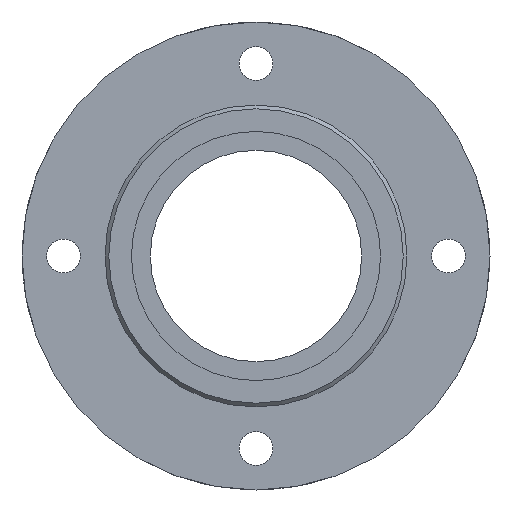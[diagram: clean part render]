
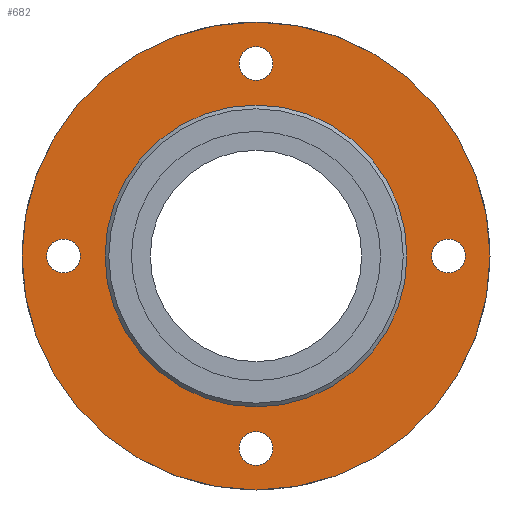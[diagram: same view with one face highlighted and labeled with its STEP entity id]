
A CAD part, left-side view. The second image highlights one B-rep face of the part: STEP entity #682.
In plain terms, the highlighted planar face has unit normal (-1, 0, 0).
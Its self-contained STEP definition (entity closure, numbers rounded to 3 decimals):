
#66=FACE_BOUND('',#176,.T.);
#67=FACE_BOUND('',#177,.T.);
#68=FACE_BOUND('',#178,.T.);
#69=FACE_BOUND('',#179,.T.);
#70=FACE_BOUND('',#180,.T.);
#89=PLANE('',#803);
#128=FACE_OUTER_BOUND('',#175,.T.);
#175=EDGE_LOOP('',(#631));
#176=EDGE_LOOP('',(#632));
#177=EDGE_LOOP('',(#633));
#178=EDGE_LOOP('',(#634));
#179=EDGE_LOOP('',(#635));
#180=EDGE_LOOP('',(#636));
#211=CIRCLE('',#751,2.25);
#214=CIRCLE('',#757,2.25);
#217=CIRCLE('',#763,2.25);
#220=CIRCLE('',#769,2.25);
#228=CIRCLE('',#781,20.);
#230=CIRCLE('',#786,31.);
#306=VERTEX_POINT('',#1311);
#309=VERTEX_POINT('',#1340);
#312=VERTEX_POINT('',#1369);
#316=VERTEX_POINT('',#1397);
#323=VERTEX_POINT('',#1418);
#325=VERTEX_POINT('',#1426);
#387=EDGE_CURVE('',#306,#306,#211,.T.);
#394=EDGE_CURVE('',#309,#309,#214,.T.);
#401=EDGE_CURVE('',#312,#312,#217,.T.);
#408=EDGE_CURVE('',#316,#316,#220,.T.);
#417=EDGE_CURVE('',#323,#323,#228,.T.);
#421=EDGE_CURVE('',#325,#325,#230,.T.);
#631=ORIENTED_EDGE('',*,*,#421,.F.);
#632=ORIENTED_EDGE('',*,*,#387,.T.);
#633=ORIENTED_EDGE('',*,*,#394,.T.);
#634=ORIENTED_EDGE('',*,*,#401,.T.);
#635=ORIENTED_EDGE('',*,*,#408,.T.);
#636=ORIENTED_EDGE('',*,*,#417,.T.);
#682=ADVANCED_FACE('',(#128,#66,#67,#68,#69,#70),#89,.T.);
#751=AXIS2_PLACEMENT_3D('',#1313,#898,#899);
#757=AXIS2_PLACEMENT_3D('',#1342,#912,#913);
#763=AXIS2_PLACEMENT_3D('',#1371,#926,#927);
#769=AXIS2_PLACEMENT_3D('',#1399,#940,#941);
#781=AXIS2_PLACEMENT_3D('',#1419,#965,#966);
#786=AXIS2_PLACEMENT_3D('',#1428,#977,#978);
#803=AXIS2_PLACEMENT_3D('',#1457,#1015,#1016);
#898=DIRECTION('center_axis',(1.,0.,0.));
#899=DIRECTION('ref_axis',(0.,0.,-1.));
#912=DIRECTION('center_axis',(1.,0.,0.));
#913=DIRECTION('ref_axis',(0.,0.,-1.));
#926=DIRECTION('center_axis',(1.,0.,0.));
#927=DIRECTION('ref_axis',(0.,0.,-1.));
#940=DIRECTION('center_axis',(1.,0.,0.));
#941=DIRECTION('ref_axis',(0.,0.,-1.));
#965=DIRECTION('center_axis',(1.,0.,0.));
#966=DIRECTION('ref_axis',(0.,1.,0.));
#977=DIRECTION('center_axis',(1.,0.,0.));
#978=DIRECTION('ref_axis',(0.,1.,0.));
#1015=DIRECTION('center_axis',(-1.,0.,0.));
#1016=DIRECTION('ref_axis',(0.,0.,1.));
#1311=CARTESIAN_POINT('',(3.,-25.5,2.25));
#1313=CARTESIAN_POINT('Origin',(3.,-25.5,0.));
#1340=CARTESIAN_POINT('',(3.,25.5,2.25));
#1342=CARTESIAN_POINT('Origin',(3.,25.5,0.));
#1369=CARTESIAN_POINT('',(3.,0.,-23.25));
#1371=CARTESIAN_POINT('Origin',(3.,0.,-25.5));
#1397=CARTESIAN_POINT('',(3.,0.,27.75));
#1399=CARTESIAN_POINT('Origin',(3.,0.,25.5));
#1418=CARTESIAN_POINT('',(3.,-20.,0.));
#1419=CARTESIAN_POINT('Origin',(3.,0.,0.));
#1426=CARTESIAN_POINT('',(3.,-31.,0.));
#1428=CARTESIAN_POINT('Origin',(3.,0.,0.));
#1457=CARTESIAN_POINT('Origin',(3.,15.5,0.));
